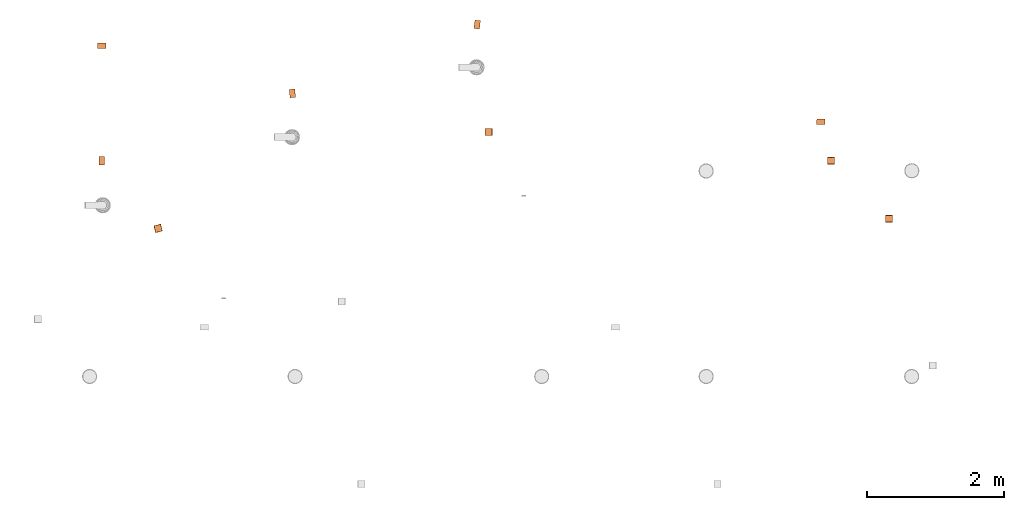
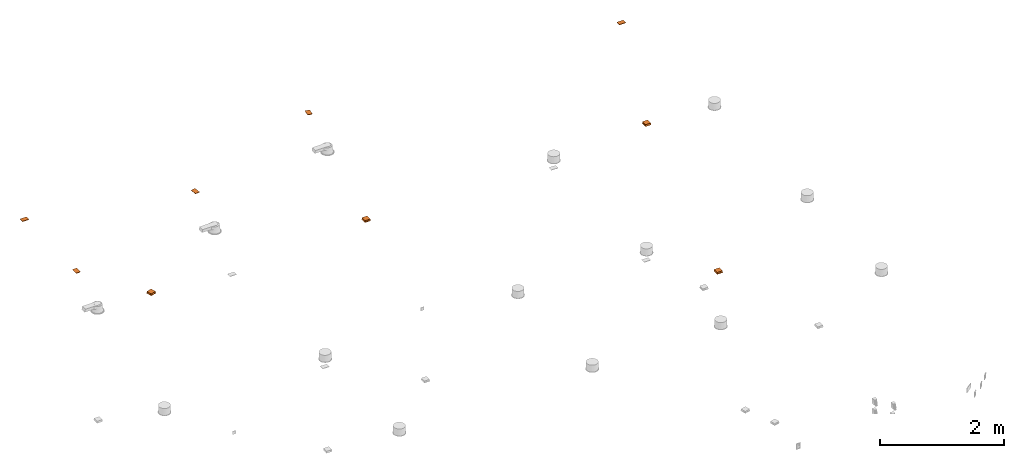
# One storey, part 6 of 9: 9 proxies.
"""IFC2X3 building model written with IfcOpenShell, lengths in millimetres."""

from ifc_helpers import new_model, entity, si_unit, converted_unit, derived_unit, direction, frame, frame_2d, origin, origin_2d_with_axis, place, context, subcontext, project, spatial, polyline, circle_curve, parameter, trimmed, segment, composite_curve, rectangle, circle, hollow_circle, outline, extrude, source, transform, mapped, material, type_object, element, save


model = new_model("IFC2X3")

# Units and contexts
model_context = context("Model", 3, precision=0.01, world=frame((0.0, 4.29681676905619e-09, 0.0)), true_north=direction((4.01073788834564e-13, 1.0)))
plan_context = context("Plan", 3, precision=0.01, world=frame((0.0, 4.29681676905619e-09, 0.0)), true_north=direction((4.01073788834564e-13, 1.0)))
body_context = subcontext(model_context, "Body", "Model", "MODEL_VIEW")
ifc_project = project(units=[converted_unit("PLANEANGLEUNIT", "DEGREE", entity("IfcPositiveLengthMeasure", 0.0174532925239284), si_unit("PLANEANGLEUNIT", "RADIAN"), dimensions=[0, 0, 0, 0, 0, 0, 0]), si_unit("AREAUNIT", "SQUARE_METRE"), si_unit("LENGTHUNIT", "METRE", prefix="MILLI"), si_unit("MASSUNIT", "GRAM", prefix="KILO"), si_unit("POWERUNIT", "WATT"), si_unit("PRESSUREUNIT", "PASCAL", prefix="KILO"), si_unit("FORCEUNIT", "NEWTON", prefix="KILO"), si_unit("ELECTRICVOLTAGEUNIT", "VOLT"), si_unit("ELECTRICCURRENTUNIT", "AMPERE"), si_unit("THERMODYNAMICTEMPERATUREUNIT", "DEGREE_CELSIUS"), si_unit("TIMEUNIT", "SECOND"), si_unit("VOLUMEUNIT", "CUBIC_METRE"), derived_unit("LINEARVELOCITYUNIT", [(si_unit("LENGTHUNIT", "METRE"), 1), (si_unit("TIMEUNIT", "SECOND"), -1)]), derived_unit("VOLUMETRICFLOWRATEUNIT", [(si_unit("VOLUMEUNIT", "CUBIC_METRE"), 1), (si_unit("TIMEUNIT", "SECOND"), -1)]), derived_unit("THERMALTRANSMITTANCEUNIT", [(si_unit("POWERUNIT", "WATT"), 1), (si_unit("THERMODYNAMICTEMPERATUREUNIT", "KELVIN"), -1), (si_unit("AREAUNIT", "SQUARE_METRE"), -1)]), derived_unit("SOUNDPRESSUREUNIT", [(si_unit("PRESSUREUNIT", "PASCAL"), 1)])], contexts=[model_context, plan_context])

# Site, building, storey
site_placement = place(None, frame((0.0, -4.29681676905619e-09, 0.0), z_axis=(0.0, 0.0, 1.0), x_axis=(1.0, 0.0, 0.0)))
site = spatial("IfcSite", under=ifc_project, at=site_placement, Name="Default", CompositionType="ELEMENT")
building_placement = place(site_placement, frame((0.0, 4.29681676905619e-09, 0.0), z_axis=(0.0, 0.0, 1.0), x_axis=(1.0, 0.0, 0.0)))
building = spatial("IfcBuilding", under=site, at=building_placement, CompositionType="ELEMENT")
storey_placement = place(building_placement, frame((0.0, 0.0, 210900.0), z_axis=(0.0, 0.0, 1.0), x_axis=(1.0, 0.0, 0.0)))
storey = spatial("IfcBuildingStorey", under=building, at=storey_placement, Name="Nivå F", CompositionType="ELEMENT", Elevation=210900.0)

# Proxies
ifc_material = material(Name="<Unnamed>")
building_element_proxy_type_1 = type_object("IfcBuildingElementProxyType", Name="Jordet-topolet-2-veis m_boks-i-tak:Jordet-topolet-2-veis m_boks-i-tak", PredefinedType="NOTDEFINED", material=ifc_material)
shared_shape_1 = source(origin(), body_context, "Body", "SweptSolid", [
    extrude(outline(composite_curve([segment(polyline([(-6.66666666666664, -6.66666666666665), (13.3333333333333, -6.66666666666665)]), True, "CONTINUOUS"), segment(trimmed(circle_curve(frame_2d((13.3333333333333, 13.3333333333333), x_axis=(-1.0, 0.0)), 20.0), [parameter(360.0)], [parameter(90.0)], True, "PARAMETER"), False, "CONTINUOUS"), segment(polyline([(-6.66666666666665, 13.3333333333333), (-6.66666666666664, -6.66666666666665)]), True, "CONTINUOUS")], self_intersect=False)), frame((39.0833333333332, 13.3933333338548, -17.1), z_axis=(0.0, 0.0, 1.0), x_axis=(-1.0, 0.0, 0.0)), (0.0, 0.0, 1.0), 0.200000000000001),
    extrude(outline(composite_curve([segment(polyline([(-6.66666666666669, -6.66666666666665), (13.3333333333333, -6.66666666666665)]), True, "CONTINUOUS"), segment(trimmed(circle_curve(frame_2d((13.3333333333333, 13.3333333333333), x_axis=(0.0, -1.0)), 20.0), [parameter(270.0)], [parameter(5.08888749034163e-14)], True, "PARAMETER"), False, "CONTINUOUS"), segment(polyline([(-6.66666666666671, 13.3333333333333), (-6.66666666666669, -6.66666666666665)]), True, "CONTINUOUS")], self_intersect=False)), frame((39.0833333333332, -13.3233333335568, -17.1), z_axis=(0.0, 0.0, 1.0), x_axis=(0.0, 1.0, 0.0)), (0.0, 0.0, 1.0), 0.200000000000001),
    extrude(outline(composite_curve([segment(polyline([(-6.66666666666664, -6.66666666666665), (13.3333333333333, -6.66666666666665)]), True, "CONTINUOUS"), segment(trimmed(circle_curve(frame_2d((13.3333333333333, 13.3333333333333), x_axis=(0.0, -1.0)), 20.0), [parameter(270.0)], [parameter(0.0)], True, "PARAMETER"), False, "CONTINUOUS"), segment(polyline([(-6.66666666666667, 13.3333333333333), (-6.66666666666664, -6.66666666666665)]), True, "CONTINUOUS")], self_intersect=False)), frame((12.4166666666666, 13.3433333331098, -17.1), z_axis=(0.0, 0.0, 1.0), x_axis=(0.0, -1.0, 0.0)), (0.0, 0.0, 1.0), 0.200000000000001),
    extrude(outline(composite_curve([segment(polyline([(-6.66666666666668, -6.66666666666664), (13.3333333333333, -6.66666666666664)]), True, "CONTINUOUS"), segment(trimmed(circle_curve(frame_2d((13.3333333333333, 13.3333333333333), x_axis=(0.0, -1.0)), 20.0), [parameter(270.0)], [parameter(0.0)], True, "PARAMETER"), False, "CONTINUOUS"), segment(polyline([(-6.66666666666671, 13.3333333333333), (-6.66666666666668, -6.66666666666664)]), True, "CONTINUOUS")], self_intersect=False)), frame((39.0833333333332, -13.3833333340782, -17.1), z_axis=(0.0, 0.0, 1.0), x_axis=(0.0, 1.0, 0.0)), (0.0, 0.0, 1.0), 0.200000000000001),
    extrude(outline(composite_curve([segment(polyline([(-6.66666666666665, -6.66666666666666), (13.3333333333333, -6.66666666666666)]), True, "CONTINUOUS"), segment(trimmed(circle_curve(frame_2d((13.3333333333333, 13.3333333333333), x_axis=(-1.0, 0.0)), 20.0), [parameter(360.0)], [parameter(89.9999999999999)], True, "PARAMETER"), False, "CONTINUOUS"), segment(polyline([(-6.66666666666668, 13.3333333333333), (-6.66666666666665, -6.66666666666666)]), True, "CONTINUOUS")], self_intersect=False)), frame((39.0833333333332, 13.3333333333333, -17.1), z_axis=(0.0, 0.0, 1.0), x_axis=(-1.0, 0.0, 0.0)), (0.0, 0.0, 1.0), 0.200000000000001),
    extrude(outline(composite_curve([segment(polyline([(-6.66666666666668, -6.66666666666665), (13.3333333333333, -6.66666666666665)]), True, "CONTINUOUS"), segment(trimmed(circle_curve(frame_2d((13.3333333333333, 13.3333333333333), x_axis=(-1.0, 0.0)), 20.0), [parameter(0.0)], [parameter(90.0)], True, "PARAMETER"), False, "CONTINUOUS"), segment(polyline([(-6.66666666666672, 13.3333333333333), (-6.66666666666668, -6.66666666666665)]), True, "CONTINUOUS")], self_intersect=False)), frame((12.4166666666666, -13.3333333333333, -17.1)), (0.0, 0.0, 1.0), 0.200000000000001),
    extrude(outline(composite_curve([segment(polyline([(-6.66666666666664, -6.66666666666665), (13.3333333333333, -6.66666666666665)]), True, "CONTINUOUS"), segment(trimmed(circle_curve(frame_2d((13.3333333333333, 13.3333333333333), x_axis=(-1.0, 0.0)), 20.0), [parameter(0.0)], [parameter(90.0)], True, "PARAMETER"), False, "CONTINUOUS"), segment(polyline([(-6.66666666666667, 13.3333333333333), (-6.66666666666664, -6.66666666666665)]), True, "CONTINUOUS")], self_intersect=False)), frame((-12.4166666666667, 13.3933333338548, -17.1), z_axis=(0.0, 0.0, 1.0), x_axis=(-1.0, 0.0, 0.0)), (0.0, 0.0, 1.0), 0.200000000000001),
    extrude(outline(composite_curve([segment(polyline([(-6.66666666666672, -6.66666666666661), (13.3333333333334, -6.66666666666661)]), True, "CONTINUOUS"), segment(trimmed(circle_curve(frame_2d((13.3333333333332, 13.3333333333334), x_axis=(0.0, -1.0)), 20.0), [parameter(270.0)], [parameter(3.56222124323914e-13)], True, "PARAMETER"), False, "CONTINUOUS"), segment(polyline([(-6.66666666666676, 13.3333333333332), (-6.66666666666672, -6.66666666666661)]), True, "CONTINUOUS")], self_intersect=False)), frame((-12.4166666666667, -13.3233333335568, -17.1), z_axis=(0.0, 0.0, 1.0), x_axis=(0.0, 1.0, 0.0)), (0.0, 0.0, 1.0), 0.200000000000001),
    extrude(outline(composite_curve([segment(polyline([(-6.66666666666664, -6.66666666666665), (13.3333333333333, -6.66666666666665)]), True, "CONTINUOUS"), segment(trimmed(circle_curve(frame_2d((13.3333333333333, 13.3333333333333), x_axis=(0.0, -1.0)), 20.0), [parameter(270.0)], [parameter(0.0)], True, "PARAMETER"), False, "CONTINUOUS"), segment(polyline([(-6.66666666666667, 13.3333333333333), (-6.66666666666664, -6.66666666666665)]), True, "CONTINUOUS")], self_intersect=False)), frame((-39.0833333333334, 13.3433333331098, -17.1), z_axis=(0.0, 0.0, 1.0), x_axis=(0.0, -1.0, 0.0)), (0.0, 0.0, 1.0), 0.200000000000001),
    extrude(outline(composite_curve([segment(polyline([(-6.66666666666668, -6.66666666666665), (13.3333333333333, -6.66666666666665)]), True, "CONTINUOUS"), segment(trimmed(circle_curve(frame_2d((13.3333333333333, 13.3333333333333), x_axis=(0.0, -1.0)), 20.0), [parameter(270.0)], [parameter(0.0)], True, "PARAMETER"), False, "CONTINUOUS"), segment(polyline([(-6.66666666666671, 13.3333333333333), (-6.66666666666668, -6.66666666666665)]), True, "CONTINUOUS")], self_intersect=False)), frame((-12.4166666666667, -13.3833333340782, -17.1), z_axis=(0.0, 0.0, 1.0), x_axis=(0.0, 1.0, 0.0)), (0.0, 0.0, 1.0), 0.200000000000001),
    extrude(outline(composite_curve([segment(polyline([(-6.66666666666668, -6.66666666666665), (13.3333333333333, -6.66666666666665)]), True, "CONTINUOUS"), segment(trimmed(circle_curve(frame_2d((13.3333333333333, 13.3333333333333), x_axis=(-1.0, 0.0)), 20.0), [parameter(0.0)], [parameter(90.0)], True, "PARAMETER"), False, "CONTINUOUS"), segment(polyline([(-6.66666666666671, 13.3333333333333), (-6.66666666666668, -6.66666666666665)]), True, "CONTINUOUS")], self_intersect=False)), frame((-12.4166666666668, 13.3333333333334, -17.1), z_axis=(0.0, 0.0, 1.0), x_axis=(-1.0, 0.0, 0.0)), (0.0, 0.0, 1.0), 0.200000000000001),
    extrude(outline(composite_curve([segment(polyline([(-6.66666666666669, -6.66666666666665), (13.3333333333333, -6.66666666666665)]), True, "CONTINUOUS"), segment(trimmed(circle_curve(frame_2d((13.3333333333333, 13.3333333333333), x_axis=(-1.0, 0.0)), 20.0), [parameter(0.0)], [parameter(90.0)], True, "PARAMETER"), False, "CONTINUOUS"), segment(polyline([(-6.66666666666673, 13.3333333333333), (-6.66666666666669, -6.66666666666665)]), True, "CONTINUOUS")], self_intersect=False)), frame((-39.0833333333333, -13.3333333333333, -17.1)), (0.0, 0.0, 1.0), 0.200000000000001),
    extrude(rectangle(XDim=0.200000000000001, YDim=1.0, at=origin_2d_with_axis()), frame((26.1999999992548, -17.5, -19.0), z_axis=(0.0, 0.0, 1.0), x_axis=(0.0, 1.0, 0.0)), (0.0, 0.0, 1.0), 6.0),
    extrude(rectangle(XDim=0.200000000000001, YDim=1.0, at=frame_2d((2.11636264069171e-15, 0.0), x_axis=(1.0, 0.0))), frame((26.1999999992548, -19.5, -17.0), z_axis=(0.0, 0.0, 1.0), x_axis=(0.0, 1.0, 0.0)), (0.0, 0.0, 1.0), 12.0),
    extrude(rectangle(XDim=0.200000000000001, YDim=1.0, at=frame_2d((2.11636264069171e-15, 0.0), x_axis=(1.0, 0.0))), frame((26.1999999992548, 17.5, -19.0), z_axis=(0.0, 0.0, 1.0), x_axis=(0.0, 1.0, 0.0)), (0.0, 0.0, 1.0), 6.0),
    extrude(rectangle(XDim=0.200000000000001, YDim=1.0, at=frame_2d((2.11636264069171e-15, 0.0), x_axis=(1.0, 0.0))), frame((26.1999999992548, 19.5, -17.0), z_axis=(0.0, 0.0, 1.0), x_axis=(0.0, 1.0, 0.0)), (0.0, 0.0, 1.0), 12.0),
    extrude(rectangle(XDim=0.200000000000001, YDim=1.0, at=origin_2d_with_axis()), frame((-25.3000000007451, -17.5, -19.0), z_axis=(0.0, 0.0, 1.0), x_axis=(0.0, 1.0, 0.0)), (0.0, 0.0, 1.0), 6.0),
    extrude(rectangle(XDim=0.200000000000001, YDim=1.0, at=frame_2d((2.11636264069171e-15, 0.0), x_axis=(1.0, 0.0))), frame((-25.3000000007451, -19.5, -17.0), z_axis=(0.0, 0.0, 1.0), x_axis=(0.0, 1.0, 0.0)), (0.0, 0.0, 1.0), 12.0),
    extrude(rectangle(XDim=0.200000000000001, YDim=1.0, at=frame_2d((2.11636264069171e-15, 0.0), x_axis=(1.0, 0.0))), frame((-25.3000000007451, 17.5, -19.0), z_axis=(0.0, 0.0, 1.0), x_axis=(0.0, 1.0, 0.0)), (0.0, 0.0, 1.0), 6.0),
    extrude(rectangle(XDim=0.200000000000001, YDim=1.0, at=frame_2d((2.11636264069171e-15, 0.0), x_axis=(1.0, 0.0))), frame((-25.3000000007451, 19.5, -17.0), z_axis=(0.0, 0.0, 1.0), x_axis=(0.0, 1.0, 0.0)), (0.0, 0.0, 1.0), 12.0),
    extrude(rectangle(XDim=11.0, YDim=40.0, at=origin_2d_with_axis()), frame((25.7499999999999, 25.5099999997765, -17.1), z_axis=(0.0, 0.0, 1.0), x_axis=(0.0, -1.0, 0.0)), (0.0, 0.0, 1.0), 0.200000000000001),
    extrude(rectangle(XDim=40.0, YDim=11.0, at=frame_2d((5.32907051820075e-15, 2.22044604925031e-15), x_axis=(1.0, 0.0))), frame((25.7499999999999, -25.5, -17.1)), (0.0, 0.0, 1.0), 0.200000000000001),
    extrude(rectangle(XDim=5.75, YDim=61.9999999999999, at=origin_2d_with_axis()), frame((48.625, 0.0, -17.1)), (0.0, 0.0, 1.0), 0.200000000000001),
    extrude(rectangle(XDim=61.9999999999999, YDim=5.74999999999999, at=frame_2d((0.0, 4.44089209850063e-16), x_axis=(1.0, 0.0))), frame((2.87499999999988, 0.0, -17.1), z_axis=(0.0, 0.0, 1.0), x_axis=(0.0, 1.0, 0.0)), (0.0, 0.0, 1.0), 0.200000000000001),
    extrude(rectangle(XDim=11.0, YDim=40.0, at=frame_2d((0.0, -3.5527136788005e-15), x_axis=(1.0, 0.0))), frame((-25.75, 25.5099999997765, -17.1), z_axis=(0.0, 0.0, 1.0), x_axis=(0.0, -1.0, 0.0)), (0.0, 0.0, 1.0), 0.200000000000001),
    extrude(rectangle(XDim=40.0, YDim=11.0, at=frame_2d((0.0, 2.22044604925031e-15), x_axis=(1.0, 0.0))), frame((-25.75, -25.5, -17.1)), (0.0, 0.0, 1.0), 0.200000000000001),
    extrude(rectangle(XDim=5.74999999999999, YDim=61.9999999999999, at=frame_2d((-4.44089209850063e-16, 0.0), x_axis=(1.0, 0.0))), frame((-2.875, 0.0, -17.1)), (0.0, 0.0, 1.0), 0.200000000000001),
    extrude(rectangle(XDim=61.9999999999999, YDim=5.75, at=origin_2d_with_axis()), frame((-48.6250000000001, 0.0, -17.1), z_axis=(0.0, 0.0, 1.0), x_axis=(0.0, 1.0, 0.0)), (0.0, 0.0, 1.0), 0.200000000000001),
    extrude(outline(polyline([(-28.6835176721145, -30.3192317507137), (-10.1362806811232, -30.3192317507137), (23.2918790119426, 21.8972229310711), (15.5279193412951, 38.7412405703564), (-28.6835176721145, -30.3192317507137)])), frame((56.42317787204, 0.0, -10.9359815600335), z_axis=(0.768221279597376, 0.0, -0.64018439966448), x_axis=(-0.539163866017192, 0.539163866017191, -0.646996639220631)), (0.0, 0.0, 1.0), 0.199999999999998),
    extrude(outline(polyline([(-28.6835176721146, -30.3192317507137), (-10.1362806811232, -30.3192317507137), (23.2918790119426, 21.897222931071), (15.5279193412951, 38.7412405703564), (-28.6835176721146, -30.3192317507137)])), frame((-56.5768221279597, 0.0, -11.0640184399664), z_axis=(0.768221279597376, 0.0, 0.64018439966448), x_axis=(0.539163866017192, 0.539163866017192, -0.646996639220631)), (0.0, 0.0, 1.0), 0.199999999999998),
    extrude(outline(polyline([(-51.4999999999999, -7.81024967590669), (51.5, -7.81024967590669), (61.4999999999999, 7.81024967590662), (-61.5, 7.81024967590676), (-51.4999999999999, -7.81024967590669)])), frame((0.0, -36.0768221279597, -11.0640184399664), z_axis=(0.0, 0.768221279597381, 0.640184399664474), x_axis=(-1.0, 0.0, 0.0)), (0.0, 0.0, 1.0), 0.200000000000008),
    extrude(outline(polyline([(-51.4999999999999, -7.81024967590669), (51.5, -7.81024967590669), (61.4999999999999, 7.81024967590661), (-61.5, 7.81024967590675), (-51.4999999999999, -7.81024967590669)])), frame((0.0, 35.9231778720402, -10.9359815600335), z_axis=(0.0, 0.768221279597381, -0.640184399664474), x_axis=(-1.0, 0.0, 0.0)), (0.0, 0.0, 1.0), 0.199999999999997),
    extrude(circle(Radius=2.5, at=frame_2d((-4.22994972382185e-15, -1.1255311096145e-14), x_axis=(1.0, 0.0))), frame((35.7499999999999, 0.0, -5.6), z_axis=(0.0, 0.0, 1.0), x_axis=(-1.0, 0.0, 0.0)), (0.0, 0.0, 1.0), 0.2),
    extrude(circle(Radius=2.5, at=frame_2d((0.0, -1.1255311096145e-14), x_axis=(1.0, 0.0))), frame((15.7499999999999, 0.0, -5.6), z_axis=(0.0, 0.0, 1.0), x_axis=(-1.0, 0.0, 0.0)), (0.0, 0.0, 1.0), 0.2),
    extrude(circle(Radius=2.5, at=frame_2d((0.0, -1.1255311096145e-14), x_axis=(1.0, 0.0))), frame((-15.75, 0.0, -5.6), z_axis=(0.0, 0.0, 1.0), x_axis=(-1.0, 0.0, 0.0)), (0.0, 0.0, 1.0), 0.2),
    extrude(circle(Radius=2.5, at=frame_2d((0.0, -1.1255311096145e-14), x_axis=(1.0, 0.0))), frame((-35.75, 0.0, -5.6), z_axis=(0.0, 0.0, 1.0), x_axis=(-1.0, 0.0, 0.0)), (0.0, 0.0, 1.0), 0.2),
    extrude(circle(Radius=20.0, at=frame_2d((0.0, -9.00424887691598e-14), x_axis=(1.0, 0.0))), frame((25.7499999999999, 0.0, -5.09999999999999), z_axis=(0.0, 0.0, 1.0), x_axis=(-1.0, 0.0, 0.0)), (0.0, 0.0, 1.0), 0.2),
    extrude(circle(Radius=20.0, at=frame_2d((4.22994972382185e-15, -9.00424887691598e-14), x_axis=(1.0, 0.0))), frame((-25.75, 0.0, -5.09999999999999), z_axis=(0.0, 0.0, 1.0), x_axis=(-1.0, 0.0, 0.0)), (0.0, 0.0, 1.0), 0.2),
    extrude(outline(composite_curve([segment(trimmed(circle_curve(frame_2d((-0.800000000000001, 0.799999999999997), x_axis=(1.0, 0.0)), 2.0), [parameter(270.0)], [parameter(0.0)], True, "PARAMETER"), True, "CONTINUOUS"), segment(polyline([(1.2, 0.799999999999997), (0.400000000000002, 0.799999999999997)]), True, "CONTINUOUS"), segment(trimmed(circle_curve(frame_2d((-0.800000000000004, 0.800000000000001), x_axis=(0.0, -1.0)), 1.20000000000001), [parameter(0.0)], [parameter(89.9999999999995)], True, "PARAMETER"), False, "CONTINUOUS"), segment(polyline([(-0.799999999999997, -0.400000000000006), (-0.799999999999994, -1.2)]), True, "CONTINUOUS")], self_intersect=False)), frame((24.6999999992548, -18.3, -17.8), z_axis=(1.0, 0.0, 0.0), x_axis=(0.0, 0.0, -1.0)), (0.0, 0.0, 1.0), 2.0),
    extrude(outline(composite_curve([segment(polyline([(-1.2, -0.800000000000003), (-0.399999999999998, -0.800000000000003)]), True, "CONTINUOUS"), segment(trimmed(circle_curve(frame_2d((0.800000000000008, -0.800000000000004), x_axis=(-1.0, 0.0)), 1.20000000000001), [parameter(270.000000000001)], [parameter(0.0)], True, "PARAMETER"), False, "CONTINUOUS"), segment(polyline([(0.799999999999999, 0.400000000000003), (0.799999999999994, 1.2)]), True, "CONTINUOUS"), segment(trimmed(circle_curve(frame_2d((0.800000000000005, -0.8), x_axis=(0.0, 1.0)), 2.0), [parameter(0.0)], [parameter(89.9999999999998)], True, "PARAMETER"), True, "CONTINUOUS")], self_intersect=False)), frame((25.6999999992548, 18.3, -17.8), z_axis=(1.0, 0.0, 0.0), x_axis=(0.0, -1.0, 0.0)), (0.0, 0.0, 1.0), 2.0),
    extrude(outline(composite_curve([segment(trimmed(circle_curve(frame_2d((-0.800000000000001, 0.799999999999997), x_axis=(1.0, 0.0)), 2.0), [parameter(270.0)], [parameter(0.0)], True, "PARAMETER"), True, "CONTINUOUS"), segment(polyline([(1.2, 0.799999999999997), (0.400000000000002, 0.799999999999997)]), True, "CONTINUOUS"), segment(trimmed(circle_curve(frame_2d((-0.800000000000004, 0.800000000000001), x_axis=(0.0, -1.0)), 1.20000000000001), [parameter(0.0)], [parameter(89.9999999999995)], True, "PARAMETER"), False, "CONTINUOUS"), segment(polyline([(-0.799999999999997, -0.400000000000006), (-0.799999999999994, -1.2)]), True, "CONTINUOUS")], self_intersect=False)), frame((-26.8000000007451, -18.3, -17.8), z_axis=(1.0, 0.0, 0.0), x_axis=(0.0, 0.0, -1.0)), (0.0, 0.0, 1.0), 2.0),
    extrude(outline(composite_curve([segment(polyline([(-1.2, -0.800000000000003), (-0.399999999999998, -0.800000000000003)]), True, "CONTINUOUS"), segment(trimmed(circle_curve(frame_2d((0.800000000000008, -0.800000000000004), x_axis=(-1.0, 0.0)), 1.20000000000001), [parameter(270.000000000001)], [parameter(0.0)], True, "PARAMETER"), False, "CONTINUOUS"), segment(polyline([(0.799999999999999, 0.400000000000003), (0.799999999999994, 1.2)]), True, "CONTINUOUS"), segment(trimmed(circle_curve(frame_2d((0.800000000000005, -0.8), x_axis=(0.0, 1.0)), 2.0), [parameter(0.0)], [parameter(89.9999999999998)], True, "PARAMETER"), True, "CONTINUOUS")], self_intersect=False)), frame((-25.8000000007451, 18.3, -17.8), z_axis=(1.0, 0.0, 0.0), x_axis=(0.0, -1.0, 0.0)), (0.0, 0.0, 1.0), 2.0),
    extrude(rectangle(XDim=81.9999999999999, YDim=123.0, at=origin_2d_with_axis()), frame((0.0, 0.0, -5.0), z_axis=(0.0, 0.0, 1.0), x_axis=(0.0, -1.0, 0.0)), (0.0, 0.0, 1.0), 4.99999999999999),
    extrude(hollow_circle(Radius=20.0, WallThickness=0.199999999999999, at=frame_2d((0.0, -9.00424887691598e-14), x_axis=(1.0, 0.0))), frame((25.7499999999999, 0.0, -17.0), z_axis=(0.0, 0.0, 1.0), x_axis=(-1.0, 0.0, 0.0)), (0.0, 0.0, 1.0), 12.0),
    extrude(hollow_circle(Radius=20.0, WallThickness=0.199999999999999, at=frame_2d((4.22994972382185e-15, -9.00424887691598e-14), x_axis=(1.0, 0.0))), frame((-25.75, 0.0, -17.0), z_axis=(0.0, 0.0, 1.0), x_axis=(-1.0, 0.0, 0.0)), (0.0, 0.0, 1.0), 12.0),
])
for number, where, z_axis, x_axis in (
    (1, (721157.589673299, 446137.383503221, 3600.0), (0.0, 0.0, 1.0), (-0.139173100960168, -0.990268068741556, 0.0)),
    (2, (718460.477913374, 445132.912518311, 3600.0), (0.0, 0.0, 1.0), (0.104528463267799, -0.994521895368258, 0.0)),
    (3, (715675.492680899, 445827.287324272, 3600.0), (0.0, 0.0, 1.0), (0.999909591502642, 0.0134465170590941, 0.0)),
    (4, (715675.492680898, 444148.761457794, 3600.0), (0.0, 0.0, 1.0), (0.0, -1.0, 0.0)),
    (5, (726175.653871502, 444717.929486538, 4480.0), (0.0, 0.0, 1.0), (0.999548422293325, -0.0300491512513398, 0.0)),
):
    element("IfcBuildingElementProxy", number, at=place(storey_placement, frame(where, z_axis=z_axis, x_axis=x_axis)), inside=storey, type_object=building_element_proxy_type_1, material=ifc_material, Name="Jordet-topolet-2-veis m_boks-i-tak:Jordet-topolet-2-veis m_boks-i-tak", ObjectType="Jordet-topolet-2-veis m_boks-i-tak:Jordet-topolet-2-veis m_boks-i-tak", context=body_context, shape_type="MappedRepresentation", body=[
        mapped(shared_shape_1, transform((0.0, 0.0, 0.0), scale=1.0)),
    ])
building_element_proxy_type_2 = type_object("IfcBuildingElementProxyType", Name="Koblingsboks tak-himling:Koblingsboks tak-himling", PredefinedType="NOTDEFINED", material=ifc_material)
shared_shape_2 = source(origin(), body_context, "Body", "SweptSolid", [
    extrude(circle(Radius=7.40000009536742, at=frame_2d((0.0, -1.05748743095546e-14), x_axis=(1.0, 0.0))), frame((50.0000000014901, -16.6666666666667, -12.9499997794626), z_axis=(1.0, 0.0, 0.0), x_axis=(0.0, 1.0, 0.0)), (0.0, 0.0, 1.0), 0.199999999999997),
    extrude(circle(Radius=7.40000009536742, at=frame_2d((0.0, -1.05748743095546e-14), x_axis=(1.0, 0.0))), frame((50.0000000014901, 16.6666666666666, -12.9499997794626), z_axis=(1.0, 0.0, 0.0), x_axis=(0.0, 1.0, 0.0)), (0.0, 0.0, 1.0), 0.199999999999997),
    extrude(circle(Radius=7.40000009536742, at=frame_2d((-2.11497486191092e-15, -1.26898491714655e-14), x_axis=(1.0, 0.0))), frame((25.0, -50.2000000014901, -12.9499997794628), z_axis=(0.0, 1.0, 0.0), x_axis=(0.0, 0.0, 1.0)), (0.0, 0.0, 1.0), 0.199999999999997),
    extrude(circle(Radius=7.40000009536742, at=frame_2d((-2.11497486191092e-15, -1.19550300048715e-14), x_axis=(1.0, 0.0))), frame((0.0, -50.2000000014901, -12.9499997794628), z_axis=(0.0, 1.0, 0.0), x_axis=(0.0, 0.0, 1.0)), (0.0, 0.0, 1.0), 0.199999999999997),
    extrude(circle(Radius=7.40000009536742, at=frame_2d((-2.11497486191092e-15, -1.26898491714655e-14), x_axis=(1.0, 0.0))), frame((-25.0, -50.2000000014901, -12.9499997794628), z_axis=(0.0, 1.0, 0.0), x_axis=(0.0, 0.0, 1.0)), (0.0, 0.0, 1.0), 0.199999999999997),
    extrude(circle(Radius=7.40000009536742, at=frame_2d((-2.11497486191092e-15, -1.26898491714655e-14), x_axis=(1.0, 0.0))), frame((25.0, 50.0000000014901, -12.9499997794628), z_axis=(0.0, 1.0, 0.0), x_axis=(0.0, 0.0, 1.0)), (0.0, 0.0, 1.0), 0.199999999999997),
    extrude(circle(Radius=7.40000009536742, at=frame_2d((-2.11497486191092e-15, -1.19550300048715e-14), x_axis=(1.0, 0.0))), frame((0.0, 50.0000000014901, -12.9499997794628), z_axis=(0.0, 1.0, 0.0), x_axis=(0.0, 0.0, 1.0)), (0.0, 0.0, 1.0), 0.199999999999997),
    extrude(circle(Radius=7.40000009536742, at=frame_2d((-2.11497486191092e-15, -1.26898491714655e-14), x_axis=(1.0, 0.0))), frame((-25.0, 50.0000000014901, -12.9499997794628), z_axis=(0.0, 1.0, 0.0), x_axis=(0.0, 0.0, 1.0)), (0.0, 0.0, 1.0), 0.199999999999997),
    extrude(circle(Radius=7.40000009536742, at=frame_2d((0.0, -1.05748743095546e-14), x_axis=(1.0, 0.0))), frame((-50.2000000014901, -16.6666666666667, -12.9499997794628), z_axis=(1.0, 0.0, 0.0), x_axis=(0.0, 1.0, 0.0)), (0.0, 0.0, 1.0), 0.199999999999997),
    extrude(circle(Radius=7.40000009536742, at=frame_2d((0.0, -1.05748743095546e-14), x_axis=(1.0, 0.0))), frame((-50.2000000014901, 16.6666666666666, -12.9499997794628), z_axis=(1.0, 0.0, 0.0), x_axis=(0.0, 1.0, 0.0)), (0.0, 0.0, 1.0), 0.199999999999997),
    extrude(rectangle(XDim=99.9999999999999, YDim=99.9999999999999, at=origin_2d_with_axis()), frame((0.0, 0.0, -25.8999996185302), z_axis=(0.0, 0.0, 1.0), x_axis=(0.0, -1.0, 0.0)), (0.0, 0.0, 1.0), 25.8999996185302),
    extrude(rectangle(XDim=106.0, YDim=106.0, at=origin_2d_with_axis()), frame((0.0, 0.0, -37.0), z_axis=(0.0, 0.0, 1.0), x_axis=(0.0, -1.0, 0.0)), (0.0, 0.0, 1.0), 11.1000003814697),
])
for number, where, z_axis, x_axis, name in (
    (6, (716500.776307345, 443161.75410267, 3500.0), (0.0, 0.0, 1.0), (0.965925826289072, 0.258819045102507, 0.0), "Koblingsboks tak-himling:Koblingsboks tak-himling"),
    (7, (721325.721299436, 444570.151859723, 2400.0), (0.0, 0.0, 1.0), (-1.0, 0.0, 0.0), "Koblingsboks tak-himling:Koblingsboks tak-himling"),
    (8, (727170.407178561, 443302.004061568, 100.0), (0.0, 0.0, 1.0), (-1.0, 0.0, 0.0), "Koblingsboks tak-himling:Koblingsboks tak-himling"),
    (9, (726321.879041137, 444150.532198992, 2800.0), (0.0, 0.0, 1.0), (-1.0, 0.0, 0.0), "Koblingsboks tak-himling:Koblingsboks tak-himling"),
):
    element("IfcBuildingElementProxy", number, at=place(storey_placement, frame(where, z_axis=z_axis, x_axis=x_axis)), inside=storey, type_object=building_element_proxy_type_2, material=ifc_material, Name=name, ObjectType="Koblingsboks tak-himling:Koblingsboks tak-himling", context=body_context, shape_type="MappedRepresentation", body=[
        mapped(shared_shape_2, transform((0.0, 0.0, 0.0), scale=1.0)),
    ])

save(model, "model.ifc")
